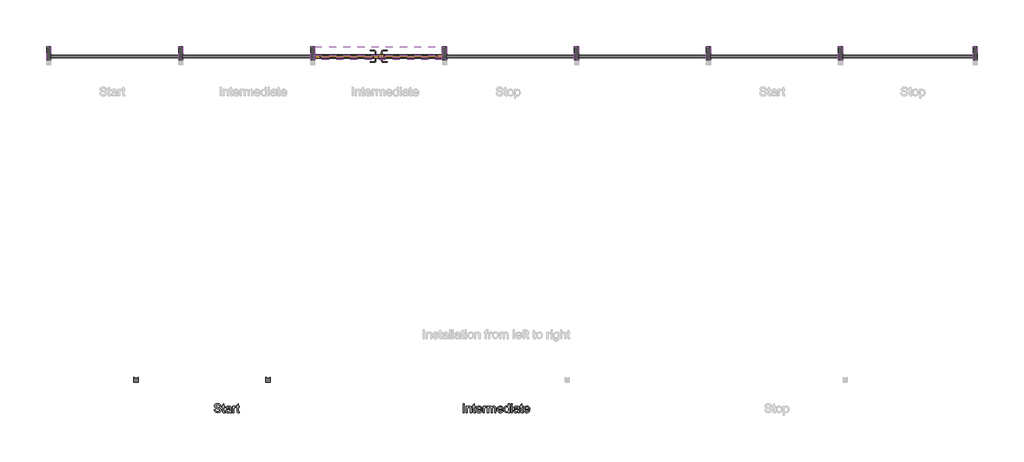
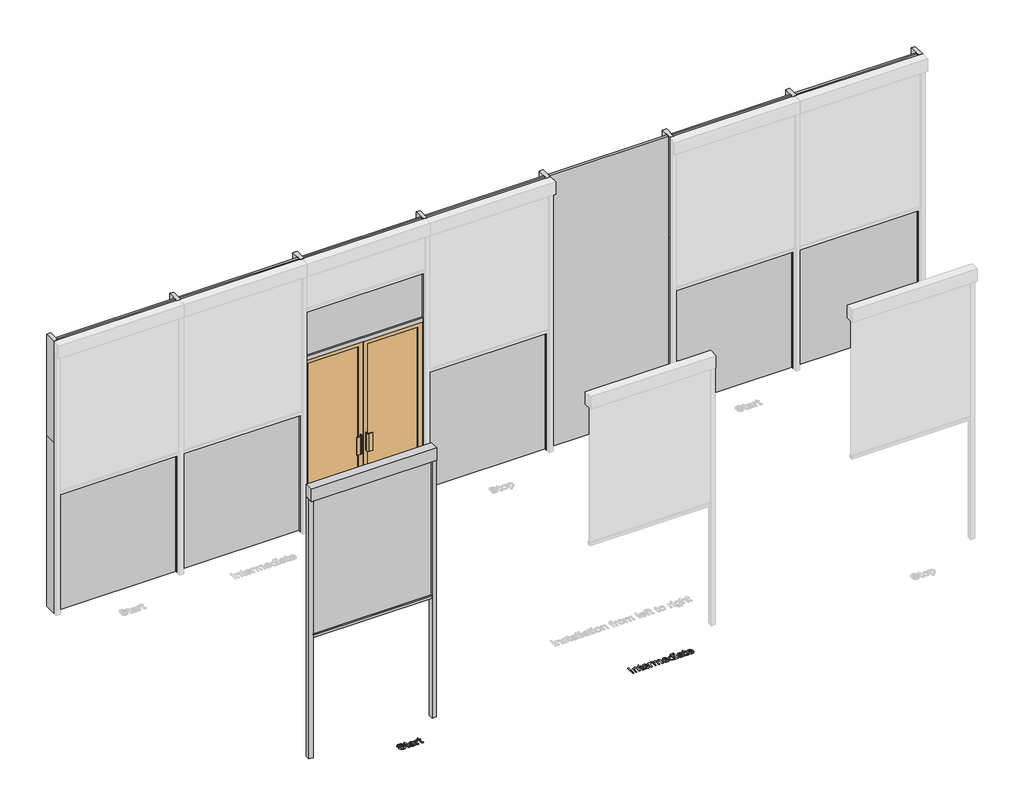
# One storey, part 1 of 4: 17 members, 7 plates, 3 proxies, 1 door.
"""IFC4 building model written with IfcOpenShell, lengths in millimetres."""

from ifc_helpers import new_model, si_unit, origin, origin_with_axes, place, context, project, spatial, polyline, outline, extrude, transform, mapped, element, save
from components import generic_models_05ed3316, m_door_curtain_wall_double_storefront_m_door_curtain_wall_2510477e, rectangular_mullion_50_x_150mm_9cef7b28, rectangular_mullion_50_x_150mm_d0db7fae, rectangular_mullion_50_x_150mm_792551fd, rectangular_mullion_50_x_150mm_1e3c48d4, rectangular_mullion_50_x_150mm_f0154c62, system_panel_glazed_d9c70c5e, system_panel_glazed_12b11880, system_panel_glazed_c856ec9c

model = new_model("IFC4")

# Units and contexts
model_context = context("Model", 3, world=origin())
ifc_project = project(units=[si_unit("LENGTHUNIT", "METRE", prefix="MILLI")], contexts=[model_context])

# Site, building, storey
site = spatial("IfcSite", under=ifc_project)
building = spatial("IfcBuilding", under=site)
storey = spatial("IfcBuildingStorey", under=building, Name="Fixscreen Mini CW50 Reynaers Overview Top", Elevation=0.0)

# Proxies
placement = place(None, origin())
generic_models_shape = generic_models_05ed3316(model_context)
element("IfcBuildingElementProxy", 1, Name="Renson_Fixscreen_Minimal_CW50_Reynaers_Start : For Reynaers curtain wall - Start element - Access downwards - Fabric close to the window", ObjectType="Renson_Fixscreen_Minimal_CW50_Reynaers_Start : For Reynaers curtain wall - Start element - Access downwards - Fabric close to the window", at=placement, inside=storey, context=model_context, shape_type="MappedRepresentation", body=[
    mapped(generic_models_shape, transform((-7420.9331588, -2499.9217625, 0.0), x_axis=(1.0, 0.0, 0.0), y_axis=(0.0, 1.0, 0.0), z_axis=(0.0, 0.0, 1.0))),
])
element("IfcBuildingElementProxy", 2, Name="100mm Arial", ObjectType="100mm Arial", at=placement, inside=storey, context=model_context, shape_type="SweptSolid", body=[
    extrude(outline(polyline([(-7528.8311252, -3561.5189543), (-7516.2740864, -3561.5189543), (-7512.2273845, -3574.0882558), (-7502.3436216, -3582.0345069), (-7487.2849852, -3585.063402), (-7474.1638607, -3582.7702709), (-7465.6903121, -3576.467226), (-7462.9066717, -3568.0427284), (-7464.9913363, -3560.2068419), (-7473.5261986, -3554.5046709), (-7491.8099338, -3549.7099423), (-7511.4916205, -3543.517262), (-7522.1724611, -3534.1730593), (-7525.6918655, -3521.689597), (-7521.3385952, -3507.4770892), (-7508.6221409, -3497.4461735), (-7490.007312, -3494.0248709), (-7470.1416842, -3497.605589), (-7456.8979324, -3508.1270141), (-7451.9192628, -3523.847838), (-7464.4763015, -3523.847838), (-7466.7816954, -3516.355308), (-7471.5886868, -3510.9474427), (-7489.5168027, -3506.5819097), (-7507.4939695, -3510.8983918), (-7513.1348267, -3521.321715), (-7509.1371757, -3530.0282555), (-7488.6338859, -3537.0425389), (-7466.4138134, -3543.3455837), (-7454.2614448, -3553.5236523), (-7450.3496329, -3567.7238973), (-7454.850056, -3582.7457454), (-7467.7995022, -3593.7086289), (-7486.7944759, -3597.6204408), (-7509.2230149, -3593.4020606), (-7523.4109971, -3580.697869), (-7528.8311252, -3561.5189543)])), origin_with_axes(), (0.0, 0.0, 1.0), 5.0),
    extrude(outline(polyline([(-7406.3999972, -3585.5784368), (-7404.8303674, -3596.4186929), (-7414.223621, -3597.6204408), (-7424.745046, -3595.5357761), (-7429.9934958, -3590.0665971), (-7431.5140748, -3575.8173012), (-7431.5140748, -3534.8352469), (-7440.9318538, -3534.8352469), (-7440.9318538, -3522.2782082), (-7431.5140748, -3522.2782082), (-7431.5140748, -3504.3500923), (-7418.957036, -3496.9679269), (-7418.957036, -3522.2782082), (-7406.3999972, -3522.2782082), (-7406.3999972, -3534.8352469), (-7418.957036, -3534.8352469), (-7418.957036, -3575.4494192), (-7418.2948484, -3581.9241423), (-7416.1488701, -3584.2172734), (-7411.8691762, -3585.063402), (-7406.3999972, -3585.5784368)])), origin_with_axes(), (0.0, 0.0, 1.0), 5.0),
    extrude(outline(polyline([(-7346.7540631, -3586.6330318), (-7358.9309571, -3595.1433687), (-7372.3831754, -3597.6204408), (-7382.8770093, -3596.1305187), (-7390.6178596, -3591.6607524), (-7395.3911285, -3584.8733296), (-7396.9822181, -3576.4304378), (-7394.5787224, -3566.497624), (-7388.2634149, -3559.2871369), (-7379.4710352, -3555.1668585), (-7368.6062536, -3553.2783976), (-7346.8276395, -3548.9619155), (-7346.7540631, -3546.1660124), (-7350.2121538, -3536.8953861), (-7364.0935678, -3533.2656171), (-7376.7977593, -3535.6813755), (-7382.8555495, -3544.253026), (-7395.4125883, -3542.6833961), (-7389.9801975, -3530.420663), (-7379.0418395, -3523.2347013), (-7362.474887, -3520.7085783), (-7347.2568351, -3522.9403957), (-7338.6606592, -3528.5444648), (-7334.810161, -3537.0670644), (-7334.1970243, -3548.0544733), (-7334.1970243, -3563.6771953), (-7333.5593622, -3585.4925977), (-7331.0577646, -3596.0508109), (-7343.6148034, -3596.0508109), (-7346.7540631, -3586.6330318)]), holes=[polyline([(-7346.7540631, -3561.5189543), (-7367.0120983, -3565.3694525), (-7377.8155662, -3567.4050662), (-7382.7083967, -3570.7160042), (-7384.4251794, -3575.5475211), (-7380.6850458, -3582.3410752), (-7369.7098996, -3585.063402), (-7357.005708, -3582.0590324), (-7348.8142022, -3574.7872316), (-7346.8276395, -3565.0751469), (-7346.7540631, -3561.5189543)])]), origin_with_axes(), (0.0, 0.0, 1.0), 5.0),
    extrude(outline(polyline([(-7316.931096, -3596.0508109), (-7316.931096, -3522.2782082), (-7305.9436871, -3522.2782082), (-7305.9436871, -3533.1920407), (-7298.1445888, -3523.1365995), (-7290.2964395, -3520.7085783), (-7277.6903498, -3524.583602), (-7281.8842046, -3535.840791), (-7290.7133725, -3533.2656171), (-7297.813495, -3535.7426892), (-7302.3384435, -3542.6098198), (-7304.3740572, -3557.2760486), (-7304.3740572, -3596.0508109), (-7316.931096, -3596.0508109)])), origin_with_axes(), (0.0, 0.0, 1.0), 5.0),
    extrude(outline(polyline([(-7243.1584932, -3585.5784368), (-7241.5888634, -3596.4186929), (-7250.982117, -3597.6204408), (-7261.503542, -3595.5357761), (-7266.7519918, -3590.0665971), (-7268.2725708, -3575.8173012), (-7268.2725708, -3534.8352469), (-7277.6903498, -3534.8352469), (-7277.6903498, -3522.2782082), (-7268.2725708, -3522.2782082), (-7268.2725708, -3504.3500923), (-7255.715532, -3496.9679269), (-7255.715532, -3522.2782082), (-7243.1584932, -3522.2782082), (-7243.1584932, -3534.8352469), (-7255.715532, -3534.8352469), (-7255.715532, -3575.4494192), (-7255.0533444, -3581.9241423), (-7252.9073661, -3584.2172734), (-7248.6276722, -3585.063402), (-7243.1584932, -3585.5784368)])), origin_with_axes(), (0.0, 0.0, 1.0), 5.0),
])
element("IfcBuildingElementProxy", 3, Name="100mm Arial", ObjectType="100mm Arial", at=placement, inside=storey, context=model_context, shape_type="SweptSolid", body=[
    extrude(outline(polyline([(-4699.4591216, -3596.0508109), (-4699.4591216, -3495.5945008), (-4686.9020828, -3495.5945008), (-4686.9020828, -3596.0508109), (-4699.4591216, -3596.0508109)])), origin_with_axes(), (0.0, 0.0, 1.0), 5.0),
    extrude(outline(polyline([(-4663.3576351, -3596.0508109), (-4663.3576351, -3522.2782082), (-4650.8005963, -3522.2782082), (-4650.8005963, -3532.578904), (-4641.1988763, -3523.6761597), (-4628.0900145, -3520.7085783), (-4616.2319515, -3523.0998113), (-4608.1385476, -3529.3783307), (-4604.3738885, -3538.6121687), (-4603.7117009, -3550.7522746), (-4603.7117009, -3596.0508109), (-4616.2687397, -3596.0508109), (-4616.2687397, -3552.4445318), (-4617.7157422, -3541.3344955), (-4622.829302, -3535.4606463), (-4631.4500034, -3533.2656171), (-4645.0738999, -3538.1952358), (-4649.3689222, -3545.3382779), (-4650.8005963, -3556.9081666), (-4650.8005963, -3596.0508109), (-4663.3576351, -3596.0508109)])), origin_with_axes(), (0.0, 0.0, 1.0), 5.0),
    extrude(outline(polyline([(-4559.7620653, -3585.5784368), (-4558.1924354, -3596.4186929), (-4567.585689, -3597.6204408), (-4578.1071141, -3595.5357761), (-4583.3555639, -3590.0665971), (-4584.8761428, -3575.8173012), (-4584.8761428, -3534.8352469), (-4594.2939219, -3534.8352469), (-4594.2939219, -3522.2782082), (-4584.8761428, -3522.2782082), (-4584.8761428, -3504.3500923), (-4572.319104, -3496.9679269), (-4572.319104, -3522.2782082), (-4559.7620653, -3522.2782082), (-4559.7620653, -3534.8352469), (-4572.319104, -3534.8352469), (-4572.319104, -3575.4494192), (-4571.6569164, -3581.9241423), (-4569.5109381, -3584.2172734), (-4565.2312442, -3585.063402), (-4559.7620653, -3585.5784368)])), origin_with_axes(), (0.0, 0.0, 1.0), 5.0),
    extrude(outline(polyline([(-4495.5543944, -3574.0759931), (-4483.2426103, -3575.6456229), (-4487.678654, -3584.9223806), (-4494.7573167, -3591.8569562), (-4504.3191829, -3596.1795696), (-4516.204837, -3597.6204408), (-4530.9385109, -3595.1341716), (-4542.2754077, -3587.6753642), (-4549.504289, -3575.7283964), (-4551.913916, -3559.7776462), (-4549.4797635, -3543.2904014), (-4542.1773059, -3530.9602232), (-4530.9936932, -3523.2714895), (-4516.9160755, -3520.7085783), (-4503.2768506, -3523.2653582), (-4492.3783465, -3530.9356978), (-4485.2322387, -3543.2413505), (-4482.8502028, -3559.7040698), (-4482.9237792, -3563.0885841), (-4539.3568773, -3563.0885841), (-4537.1833078, -3572.4879691), (-4532.1341274, -3579.3980193), (-4524.8469982, -3583.6470563), (-4515.9595824, -3585.063402), (-4503.6477983, -3582.4391771), (-4495.5543944, -3574.0759931)]), holes=[polyline([(-4539.3568773, -3550.5315454), (-4495.4072416, -3550.5315454), (-4500.4349622, -3539.151729), (-4507.7558139, -3534.7371451), (-4516.9651265, -3533.2656171), (-4532.428433, -3537.9622439), (-4537.2936724, -3543.4528827), (-4539.3568773, -3550.5315454)])]), origin_with_axes(), (0.0, 0.0, 1.0), 5.0),
    extrude(outline(polyline([(-4470.293164, -3596.0508109), (-4470.293164, -3522.2782082), (-4459.3057551, -3522.2782082), (-4459.3057551, -3533.1920407), (-4451.5066568, -3523.1365995), (-4443.6585076, -3520.7085783), (-4431.0524179, -3524.583602), (-4435.2462726, -3535.840791), (-4444.0754405, -3533.2656171), (-4451.175563, -3535.7426892), (-4455.7005115, -3542.6098198), (-4457.7361253, -3557.2760486), (-4457.7361253, -3596.0508109), (-4470.293164, -3596.0508109)])), origin_with_axes(), (0.0, 0.0, 1.0), 5.0),
    extrude(outline(polyline([(-4423.2042686, -3596.0508109), (-4423.2042686, -3522.2782082), (-4410.6472299, -3522.2782082), (-4410.6472299, -3534.418314), (-4402.0142657, -3524.4732374), (-4389.7270071, -3520.7085783), (-4377.1454428, -3524.5468138), (-4370.2292613, -3535.3012308), (-4360.4313375, -3524.3567414), (-4348.0582398, -3520.7085783), (-4338.6190009, -3522.2260915), (-4331.63844, -3526.7786312), (-4327.3250236, -3534.4888247), (-4325.8872182, -3545.4792993), (-4325.8872182, -3596.0508109), (-4338.444257, -3596.0508109), (-4338.444257, -3550.8749019), (-4339.6092166, -3540.390265), (-4343.8275968, -3535.2276544), (-4351.0012957, -3533.2656171), (-4363.349868, -3538.2933377), (-4367.037885, -3544.8355058), (-4368.267224, -3554.4065691), (-4368.267224, -3596.0508109), (-4380.8242628, -3596.0508109), (-4380.8242628, -3549.4769503), (-4383.7305306, -3537.312319), (-4393.2586742, -3533.2656171), (-4402.553826, -3535.9634184), (-4408.7342435, -3543.8606185), (-4410.6472299, -3558.8456785), (-4410.6472299, -3596.0508109), (-4423.2042686, -3596.0508109)])), origin_with_axes(), (0.0, 0.0, 1.0), 5.0),
    extrude(outline(polyline([(-4255.4010279, -3574.0759931), (-4243.0892438, -3575.6456229), (-4247.5252875, -3584.9223806), (-4254.6039503, -3591.8569562), (-4264.1658164, -3596.1795696), (-4276.0514706, -3597.6204408), (-4290.7851445, -3595.1341716), (-4302.1220413, -3587.6753642), (-4309.3509225, -3575.7283964), (-4311.7605496, -3559.7776462), (-4309.326397, -3543.2904014), (-4302.0239394, -3530.9602232), (-4290.8403268, -3523.2714895), (-4276.7627091, -3520.7085783), (-4263.1234841, -3523.2653582), (-4252.22498, -3530.9356978), (-4245.0788723, -3543.2413505), (-4242.6968363, -3559.7040698), (-4242.7704127, -3563.0885841), (-4299.2035108, -3563.0885841), (-4297.0299413, -3572.4879691), (-4291.980761, -3579.3980193), (-4284.6936318, -3583.6470563), (-4275.8062159, -3585.063402), (-4263.4944318, -3582.4391771), (-4255.4010279, -3574.0759931)]), holes=[polyline([(-4299.2035108, -3550.5315454), (-4255.2538751, -3550.5315454), (-4260.2815957, -3539.151729), (-4267.6024474, -3534.7371451), (-4276.81176, -3533.2656171), (-4292.2750666, -3537.9622439), (-4297.1403059, -3543.4528827), (-4299.2035108, -3550.5315454)])]), origin_with_axes(), (0.0, 0.0, 1.0), 5.0),
    extrude(outline(polyline([(-4184.620532, -3596.0508109), (-4184.620532, -3584.2050107), (-4192.9285338, -3594.2665832), (-4204.4125834, -3597.6204408), (-4219.961729, -3592.7643984), (-4230.949138, -3579.2140783), (-4234.8486871, -3559.2380859), (-4231.2557063, -3539.2498309), (-4220.4890266, -3525.4910442), (-4204.4616343, -3520.7085783), (-4192.8856142, -3524.1298809), (-4184.620532, -3533.0203624), (-4184.620532, -3495.5945008), (-4172.0634933, -3495.5945008), (-4172.0634933, -3596.0508109), (-4184.620532, -3596.0508109)]), holes=[polyline([(-4222.2916483, -3559.189035), (-4220.8753027, -3570.5473916), (-4216.6262656, -3578.6254671), (-4210.4519795, -3583.4539183), (-4203.2598865, -3585.063402), (-4196.0708591, -3583.5274947), (-4190.0529228, -3578.9197727), (-4185.9786297, -3571.1543969), (-4184.620532, -3560.1455282), (-4186.0031552, -3548.1096556), (-4190.1510247, -3539.7648657), (-4196.3222452, -3534.8904292), (-4203.7749213, -3533.2656171), (-4211.0405907, -3534.8260499), (-4216.9941476, -3539.5073483), (-4220.9672732, -3547.5486355), (-4222.2916483, -3559.189035)])]), origin_with_axes(), (0.0, 0.0, 1.0), 5.0),
    extrude(outline(polyline([(-4153.2279351, -3508.1515395), (-4153.2279351, -3495.5945008), (-4140.6708963, -3495.5945008), (-4140.6708963, -3508.1515395), (-4153.2279351, -3508.1515395)])), origin_with_axes(), (0.0, 0.0, 1.0), 5.0),
    extrude(outline(polyline([(-4153.2279351, -3596.0508109), (-4153.2279351, -3522.2782082), (-4140.6708963, -3522.2782082), (-4140.6708963, -3596.0508109), (-4153.2279351, -3596.0508109)])), origin_with_axes(), (0.0, 0.0, 1.0), 5.0),
    extrude(outline(polyline([(-4074.7464428, -3586.6330318), (-4086.9233369, -3595.1433687), (-4100.3755551, -3597.6204408), (-4110.8693891, -3596.1305187), (-4118.6102394, -3591.6607524), (-4123.3835083, -3584.8733296), (-4124.9745979, -3576.4304378), (-4122.5711022, -3566.497624), (-4116.2557946, -3559.2871369), (-4107.4634149, -3555.1668585), (-4096.5986333, -3553.2783976), (-4074.8200192, -3548.9619155), (-4074.7464428, -3546.1660124), (-4078.2045336, -3536.8953861), (-4092.0859475, -3533.2656171), (-4104.7901391, -3535.6813755), (-4110.8479293, -3544.253026), (-4123.404968, -3542.6833961), (-4117.9725772, -3530.420663), (-4107.0342193, -3523.2347013), (-4090.4672667, -3520.7085783), (-4075.2492149, -3522.9403957), (-4066.6530389, -3528.5444648), (-4062.8025407, -3537.0670644), (-4062.189404, -3548.0544733), (-4062.189404, -3563.6771953), (-4061.5517419, -3585.4925977), (-4059.0501443, -3596.0508109), (-4071.6071831, -3596.0508109), (-4074.7464428, -3586.6330318)]), holes=[polyline([(-4074.7464428, -3561.5189543), (-4095.004478, -3565.3694525), (-4105.8079459, -3567.4050662), (-4110.7007765, -3570.7160042), (-4112.4175591, -3575.5475211), (-4108.6774255, -3582.3410752), (-4097.7022793, -3585.063402), (-4084.9980877, -3582.0590324), (-4076.806582, -3574.7872316), (-4074.8200192, -3565.0751469), (-4074.7464428, -3561.5189543)])]), origin_with_axes(), (0.0, 0.0, 1.0), 5.0),
    extrude(outline(polyline([(-4018.2397684, -3585.5784368), (-4016.6701385, -3596.4186929), (-4026.0633921, -3597.6204408), (-4036.5848172, -3595.5357761), (-4041.833267, -3590.0665971), (-4043.3538459, -3575.8173012), (-4043.3538459, -3534.8352469), (-4052.771625, -3534.8352469), (-4052.771625, -3522.2782082), (-4043.3538459, -3522.2782082), (-4043.3538459, -3504.3500923), (-4030.7968071, -3496.9679269), (-4030.7968071, -3522.2782082), (-4018.2397684, -3522.2782082), (-4018.2397684, -3534.8352469), (-4030.7968071, -3534.8352469), (-4030.7968071, -3575.4494192), (-4030.1346195, -3581.9241423), (-4027.9886412, -3584.2172734), (-4023.7089473, -3585.063402), (-4018.2397684, -3585.5784368)])), origin_with_axes(), (0.0, 0.0, 1.0), 5.0),
    extrude(outline(polyline([(-3954.0320975, -3574.0759931), (-3941.7203134, -3575.6456229), (-3946.1563571, -3584.9223806), (-3953.2350198, -3591.8569562), (-3962.796886, -3596.1795696), (-3974.6825401, -3597.6204408), (-3989.416214, -3595.1341716), (-4000.7531108, -3587.6753642), (-4007.9819921, -3575.7283964), (-4010.3916191, -3559.7776462), (-4007.9574666, -3543.2904014), (-4000.655009, -3530.9602232), (-3989.4713963, -3523.2714895), (-3975.3937786, -3520.7085783), (-3961.7545537, -3523.2653582), (-3950.8560496, -3530.9356978), (-3943.7099418, -3543.2413505), (-3941.3279059, -3559.7040698), (-3941.4014823, -3563.0885841), (-3997.8345804, -3563.0885841), (-3995.6610109, -3572.4879691), (-3990.6118305, -3579.3980193), (-3983.3247013, -3583.6470563), (-3974.4372855, -3585.063402), (-3962.1255014, -3582.4391771), (-3954.0320975, -3574.0759931)]), holes=[polyline([(-3997.8345804, -3550.5315454), (-3953.8849447, -3550.5315454), (-3958.9126653, -3539.151729), (-3966.233517, -3534.7371451), (-3975.4428296, -3533.2656171), (-3990.9061361, -3537.9622439), (-3995.7713755, -3543.4528827), (-3997.8345804, -3550.5315454)])]), origin_with_axes(), (0.0, 0.0, 1.0), 5.0),
])

# Door
m_door_curtain_wall_double_storefront_m_door_curtain_wall_shape = m_door_curtain_wall_double_storefront_m_door_curtain_wall_2510477e(model_context)
element("IfcDoor", 4, ObjectType="M_Door-Curtain-Wall-Double-Storefront : M_Door-Curtain-Wall-Double-Storefront", at=placement, inside=storey, context=model_context, shape_type="MappedRepresentation", body=[
    mapped(m_door_curtain_wall_double_storefront_m_door_curtain_wall_shape, transform((-5658.6521319, 489.0054477, 0.0), x_axis=(1.0, 0.0, 0.0), y_axis=(0.0, 1.0, 0.0), z_axis=(0.0, 0.0, 1.0))),
])

# Members
rectangular_mullion_50_x_150mm_shape = rectangular_mullion_50_x_150mm_9cef7b28(model_context)
element("IfcMember", 5, ObjectType="Rectangular Mullion : 50 x 150mm", at=placement, inside=storey, context=model_context, shape_type="MappedRepresentation", body=[
    mapped(rectangular_mullion_50_x_150mm_shape, transform((-7908.6521319, 489.0054477, 0.0), x_axis=(1.0, 0.0, 0.0), y_axis=(0.0, -1.0, 0.0), z_axis=(0.0, 0.0, -1.0))),
])
element("IfcMember", 6, ObjectType="Rectangular Mullion : 50 x 150mm", at=placement, inside=storey, context=model_context, shape_type="MappedRepresentation", body=[
    mapped(rectangular_mullion_50_x_150mm_shape, transform((-3408.6521319, 489.0054477, 0.0), x_axis=(1.0, 0.0, 0.0), y_axis=(0.0, -1.0, 0.0), z_axis=(0.0, 0.0, -1.0))),
])
element("IfcMember", 7, ObjectType="Rectangular Mullion : 50 x 150mm", at=placement, inside=storey, context=model_context, shape_type="MappedRepresentation", body=[
    mapped(rectangular_mullion_50_x_150mm_shape, transform((-1908.6521319, 489.0054477, 0.0), x_axis=(1.0, 0.0, 0.0), y_axis=(0.0, -1.0, 0.0), z_axis=(0.0, 0.0, -1.0))),
])
element("IfcMember", 8, ObjectType="Rectangular Mullion : 50 x 150mm", at=placement, inside=storey, context=model_context, shape_type="MappedRepresentation", body=[
    mapped(rectangular_mullion_50_x_150mm_shape, transform((-408.6521319, 489.0054477, 0.0), x_axis=(1.0, 0.0, 0.0), y_axis=(0.0, -1.0, 0.0), z_axis=(0.0, 0.0, -1.0))),
])
rectangular_mullion_50_x_150mm_2_shape = rectangular_mullion_50_x_150mm_d0db7fae(model_context)
element("IfcMember", 9, ObjectType="Rectangular Mullion : 50 x 150mm", at=placement, inside=storey, context=model_context, shape_type="MappedRepresentation", body=[
    mapped(rectangular_mullion_50_x_150mm_2_shape, transform((-7908.6521319, 489.0054477, 2200.0), x_axis=(1.0, 0.0, 0.0), y_axis=(0.0, -1.0, 0.0), z_axis=(0.0, 0.0, -1.0))),
])
element("IfcMember", 10, ObjectType="Rectangular Mullion : 50 x 150mm", at=placement, inside=storey, context=model_context, shape_type="MappedRepresentation", body=[
    mapped(rectangular_mullion_50_x_150mm_2_shape, transform((-3408.6521319, 489.0054477, 2200.0), x_axis=(1.0, 0.0, 0.0), y_axis=(0.0, -1.0, 0.0), z_axis=(0.0, 0.0, -1.0))),
])
element("IfcMember", 11, ObjectType="Rectangular Mullion : 50 x 150mm", at=placement, inside=storey, context=model_context, shape_type="MappedRepresentation", body=[
    mapped(rectangular_mullion_50_x_150mm_2_shape, transform((-1908.6521319, 489.0054477, 2200.0), x_axis=(1.0, 0.0, 0.0), y_axis=(0.0, -1.0, 0.0), z_axis=(0.0, 0.0, -1.0))),
])
element("IfcMember", 12, ObjectType="Rectangular Mullion : 50 x 150mm", at=placement, inside=storey, context=model_context, shape_type="MappedRepresentation", body=[
    mapped(rectangular_mullion_50_x_150mm_2_shape, transform((-408.6521319, 489.0054477, 2200.0), x_axis=(1.0, 0.0, 0.0), y_axis=(0.0, -1.0, 0.0), z_axis=(0.0, 0.0, -1.0))),
])
rectangular_mullion_50_x_150mm_3_shape = rectangular_mullion_50_x_150mm_792551fd(model_context)
element("IfcMember", 13, ObjectType="Rectangular Mullion : 50 x 150mm", at=placement, inside=storey, context=model_context, shape_type="MappedRepresentation", body=[
    mapped(rectangular_mullion_50_x_150mm_3_shape, transform((1146.3478681, 489.0054477, 0.0), x_axis=(1.0, 0.0, 0.0), y_axis=(0.0, -1.0, 0.0), z_axis=(0.0, 0.0, -1.0))),
])
rectangular_mullion_50_x_150mm_4_shape = rectangular_mullion_50_x_150mm_1e3c48d4(model_context)
element("IfcMember", 14, ObjectType="Rectangular Mullion : 50 x 150mm", at=placement, inside=storey, context=model_context, shape_type="MappedRepresentation", body=[
    mapped(rectangular_mullion_50_x_150mm_4_shape, transform((-9433.6521319, 489.0054477, 3500.0), x_axis=(-1.0, 0.0, 0.0), y_axis=(0.0, -1.0, 0.0), z_axis=(0.0, 0.0, 1.0))),
])
element("IfcMember", 15, ObjectType="Rectangular Mullion : 50 x 150mm", at=placement, inside=storey, context=model_context, shape_type="MappedRepresentation", body=[
    mapped(rectangular_mullion_50_x_150mm_4_shape, transform((1146.3478681, 489.0054477, 2200.0), x_axis=(1.0, 0.0, 0.0), y_axis=(0.0, -1.0, 0.0), z_axis=(0.0, 0.0, -1.0))),
])
element("IfcMember", 16, ObjectType="Rectangular Mullion : 50 x 150mm", at=placement, inside=storey, context=model_context, shape_type="MappedRepresentation", body=[
    mapped(rectangular_mullion_50_x_150mm_3_shape, transform((-9433.6521319, 489.0054477, 2200.0), x_axis=(-1.0, 0.0, 0.0), y_axis=(0.0, -1.0, 0.0), z_axis=(0.0, 0.0, 1.0))),
])
element("IfcMember", 17, ObjectType="Rectangular Mullion : 50 x 150mm", at=placement, inside=storey, context=model_context, shape_type="MappedRepresentation", body=[
    mapped(rectangular_mullion_50_x_150mm_shape, transform((-6408.6521319, 489.0054477, 0.0), x_axis=(1.0, 0.0, 0.0), y_axis=(0.0, -1.0, 0.0), z_axis=(0.0, 0.0, -1.0))),
])
element("IfcMember", 18, ObjectType="Rectangular Mullion : 50 x 150mm", at=placement, inside=storey, context=model_context, shape_type="MappedRepresentation", body=[
    mapped(rectangular_mullion_50_x_150mm_shape, transform((-4908.6521319, 489.0054477, 0.0), x_axis=(1.0, 0.0, 0.0), y_axis=(0.0, -1.0, 0.0), z_axis=(0.0, 0.0, -1.0))),
])
element("IfcMember", 19, ObjectType="Rectangular Mullion : 50 x 150mm", at=placement, inside=storey, context=model_context, shape_type="MappedRepresentation", body=[
    mapped(rectangular_mullion_50_x_150mm_2_shape, transform((-6408.6521319, 489.0054477, 2200.0), x_axis=(1.0, 0.0, 0.0), y_axis=(0.0, -1.0, 0.0), z_axis=(0.0, 0.0, -1.0))),
])
element("IfcMember", 20, ObjectType="Rectangular Mullion : 50 x 150mm", at=placement, inside=storey, context=model_context, shape_type="MappedRepresentation", body=[
    mapped(rectangular_mullion_50_x_150mm_2_shape, transform((-4908.6521319, 489.0054477, 2200.0), x_axis=(1.0, 0.0, 0.0), y_axis=(0.0, -1.0, 0.0), z_axis=(0.0, 0.0, -1.0))),
])
rectangular_mullion_50_x_150mm_5_shape = rectangular_mullion_50_x_150mm_f0154c62(model_context)
element("IfcMember", 21, ObjectType="Rectangular Mullion : 50 x 150mm", at=placement, inside=storey, context=model_context, shape_type="MappedRepresentation", body=[
    mapped(rectangular_mullion_50_x_150mm_5_shape, transform((-4933.6521319, 489.0054477, 2200.0), x_axis=(0.0, 0.0, 1.0), y_axis=(0.0, -1.0, 0.0), z_axis=(1.0, 0.0, 0.0))),
])

# Plates
system_panel_glazed_shape = system_panel_glazed_d9c70c5e(model_context)
element("IfcPlate", 22, ObjectType="System Panel : Glazed", at=placement, inside=storey, context=model_context, shape_type="MappedRepresentation", body=[
    mapped(system_panel_glazed_shape, transform((-8658.6521319, 489.0054477, 0.0), x_axis=(1.0, 0.0, 0.0), y_axis=(0.0, 1.0, 0.0), z_axis=(0.0, 0.0, 1.0))),
])
element("IfcPlate", 23, ObjectType="System Panel : Glazed", at=placement, inside=storey, context=model_context, shape_type="MappedRepresentation", body=[
    mapped(system_panel_glazed_shape, transform((-7158.6521319, 489.0054477, 0.0), x_axis=(1.0, 0.0, 0.0), y_axis=(0.0, 1.0, 0.0), z_axis=(0.0, 0.0, 1.0))),
])
element("IfcPlate", 24, ObjectType="System Panel : Glazed", at=placement, inside=storey, context=model_context, shape_type="MappedRepresentation", body=[
    mapped(system_panel_glazed_shape, transform((-4158.6521319, 489.0054477, 0.0), x_axis=(1.0, 0.0, 0.0), y_axis=(0.0, 1.0, 0.0), z_axis=(0.0, 0.0, 1.0))),
])
element("IfcPlate", 25, ObjectType="System Panel : Glazed", at=placement, inside=storey, context=model_context, shape_type="MappedRepresentation", body=[
    mapped(system_panel_glazed_shape, transform((-2658.6521319, 489.0054477, 0.0), x_axis=(1.0, 0.0, 0.0), y_axis=(0.0, 1.0, 0.0), z_axis=(0.0, 0.0, 1.0))),
])
element("IfcPlate", 26, ObjectType="System Panel : Glazed", at=placement, inside=storey, context=model_context, shape_type="MappedRepresentation", body=[
    mapped(system_panel_glazed_shape, transform((-1158.6521319, 489.0054477, 0.0), x_axis=(1.0, 0.0, 0.0), y_axis=(0.0, 1.0, 0.0), z_axis=(0.0, 0.0, 1.0))),
])
system_panel_glazed_2_shape = system_panel_glazed_12b11880(model_context)
element("IfcPlate", 27, ObjectType="System Panel : Glazed", at=placement, inside=storey, context=model_context, shape_type="MappedRepresentation", body=[
    mapped(system_panel_glazed_2_shape, transform((356.3478681, 489.0054477, 0.0), x_axis=(1.0, 0.0, 0.0), y_axis=(0.0, 1.0, 0.0), z_axis=(0.0, 0.0, 1.0))),
])
system_panel_glazed_3_shape = system_panel_glazed_c856ec9c(model_context)
element("IfcPlate", 28, ObjectType="System Panel : Glazed", at=placement, inside=storey, context=model_context, shape_type="MappedRepresentation", body=[
    mapped(system_panel_glazed_3_shape, transform((-5658.6521319, 489.0054477, 2225.0), x_axis=(1.0, 0.0, 0.0), y_axis=(0.0, 1.0, 0.0), z_axis=(0.0, 0.0, 1.0))),
])

save(model, "model.ifc")
